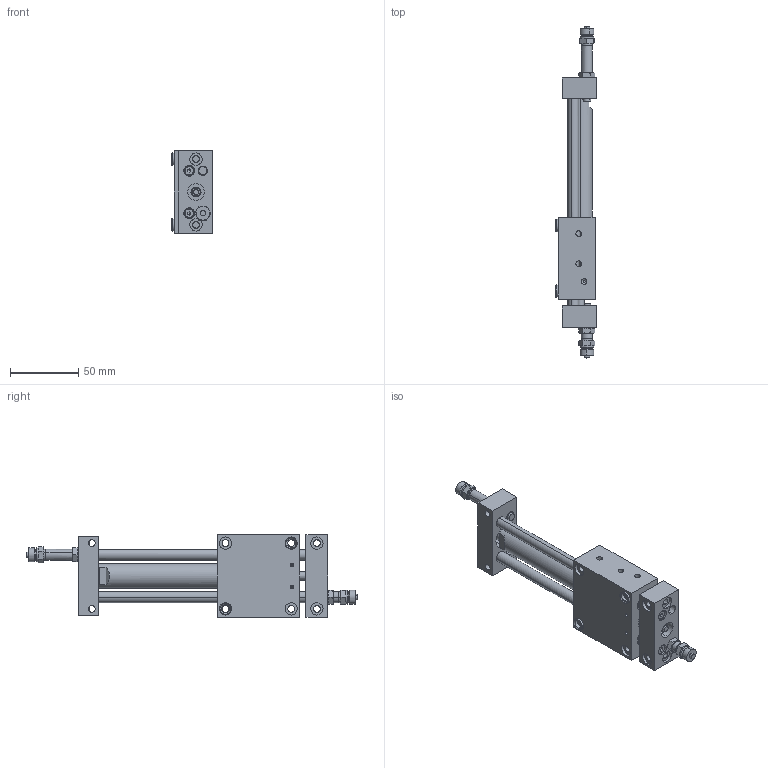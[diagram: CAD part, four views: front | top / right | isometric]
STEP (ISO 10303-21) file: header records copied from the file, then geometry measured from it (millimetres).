
FILE_DESCRIPTION((''),'2;1');
FILE_NAME('V:\CAD\Inventor-Stp\Linearelemente\LE 16\stp\05-23-000.stp','2004-01-13T09:58:43',('VS'),(''),'Autodesk Inventor (R) 6.0','Autodesk Inventor (R) 6.0','');
FILE_SCHEMA(('CONFIG_CONTROL_DESIGN'));
Length unit declared in the file: millimetre
Products named in the file (3): Baugruppe1; 05-23-000-a; 05-23-000-b
Assembly tree (2 placements, depth 2):
  Baugruppe1
    05-23-000-a
    05-23-000-b
Bounding box: 29.9 x 242.5 x 60 mm (x, y, z)
Volume: 161778.9 mm3; surface area: 62039 mm2
Topology: 2 solids, 22 shells, 637 faces, 1509 edges, 946 vertices
Faces by surface type: bspline 221, plane 177, cylinder 139, cone 82, torus 18
Entity records: 22604 total; most frequent: CARTESIAN_POINT 8101, ORIENTED_EDGE 2970, DIRECTION 2909, EDGE_CURVE 1485, AXIS2_PLACEMENT_3D 1160, VERTEX_POINT 946, EDGE_LOOP 779, CIRCLE 727
